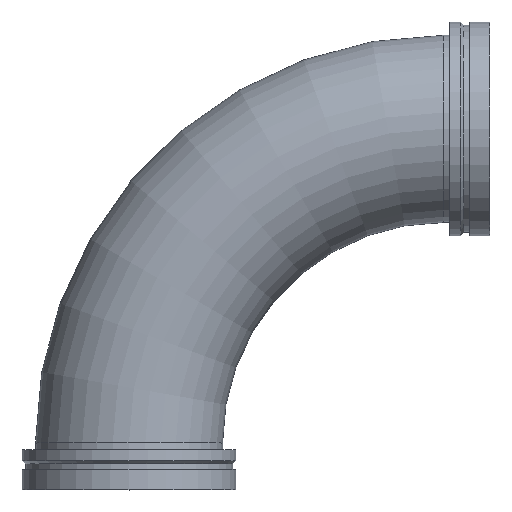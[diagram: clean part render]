
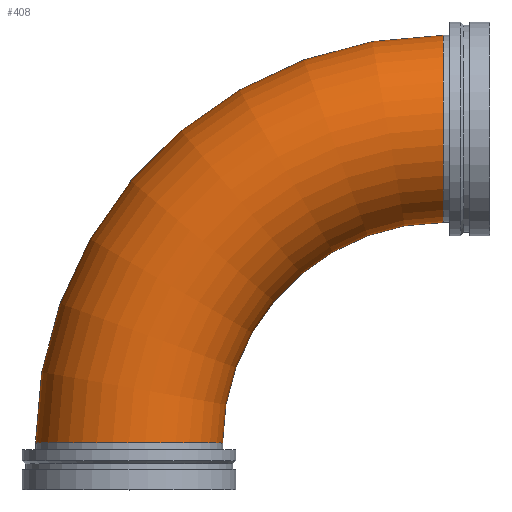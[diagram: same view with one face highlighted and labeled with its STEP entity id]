
A CAD part, top view. The second image highlights one B-rep face of the part: STEP entity #408.
In plain terms, the highlighted toroidal (fillet/blend) face has major radius 596.9 mm and minor radius 177.8 mm.
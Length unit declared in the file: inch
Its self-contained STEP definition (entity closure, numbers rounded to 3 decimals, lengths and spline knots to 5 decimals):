
#46=TOROIDAL_SURFACE('',#484,23.5,7.);
#105=FACE_OUTER_BOUND('',#129,.T.);
#129=EDGE_LOOP('',(#346,#347,#348,#349,#350,#351));
#169=CIRCLE('',#482,7.);
#170=CIRCLE('',#483,7.);
#171=CIRCLE('',#485,16.5);
#172=CIRCLE('',#486,7.);
#173=CIRCLE('',#487,7.);
#207=VERTEX_POINT('',#756);
#208=VERTEX_POINT('',#758);
#209=VERTEX_POINT('',#762);
#210=VERTEX_POINT('',#764);
#256=EDGE_CURVE('',#207,#208,#169,.T.);
#257=EDGE_CURVE('',#208,#207,#170,.T.);
#258=EDGE_CURVE('',#208,#209,#171,.T.);
#259=EDGE_CURVE('',#209,#210,#172,.T.);
#260=EDGE_CURVE('',#210,#209,#173,.T.);
#346=ORIENTED_EDGE('',*,*,#256,.F.);
#347=ORIENTED_EDGE('',*,*,#257,.F.);
#348=ORIENTED_EDGE('',*,*,#258,.T.);
#349=ORIENTED_EDGE('',*,*,#259,.T.);
#350=ORIENTED_EDGE('',*,*,#260,.T.);
#351=ORIENTED_EDGE('',*,*,#258,.F.);
#408=ADVANCED_FACE('',(#105),#46,.T.);
#482=AXIS2_PLACEMENT_3D('',#759,#617,#618);
#483=AXIS2_PLACEMENT_3D('',#760,#619,#620);
#484=AXIS2_PLACEMENT_3D('',#761,#621,#622);
#485=AXIS2_PLACEMENT_3D('',#763,#623,#624);
#486=AXIS2_PLACEMENT_3D('',#765,#625,#626);
#487=AXIS2_PLACEMENT_3D('',#766,#627,#628);
#617=DIRECTION('center_axis',(1.,0.,0.));
#618=DIRECTION('ref_axis',(0.,-1.,0.));
#619=DIRECTION('center_axis',(1.,0.,0.));
#620=DIRECTION('ref_axis',(0.,-1.,0.));
#621=DIRECTION('center_axis',(0.,0.,-1.));
#622=DIRECTION('ref_axis',(-1.,0.,0.));
#623=DIRECTION('center_axis',(0.,0.,1.));
#624=DIRECTION('ref_axis',(-1.,0.,0.));
#625=DIRECTION('center_axis',(0.,1.,0.));
#626=DIRECTION('ref_axis',(1.,0.,0.));
#627=DIRECTION('center_axis',(0.,1.,0.));
#628=DIRECTION('ref_axis',(1.,0.,0.));
#756=CARTESIAN_POINT('',(23.5,34.,0.));
#758=CARTESIAN_POINT('',(23.5,20.,0.));
#759=CARTESIAN_POINT('Origin',(23.5,27.,0.));
#760=CARTESIAN_POINT('Origin',(23.5,27.,0.));
#761=CARTESIAN_POINT('Origin',(23.5,3.5,0.));
#762=CARTESIAN_POINT('',(7.,3.5,0.));
#763=CARTESIAN_POINT('Origin',(23.5,3.5,0.));
#764=CARTESIAN_POINT('',(-7.,3.5,0.));
#765=CARTESIAN_POINT('Origin',(0.,3.5,0.));
#766=CARTESIAN_POINT('Origin',(0.,3.5,0.));
